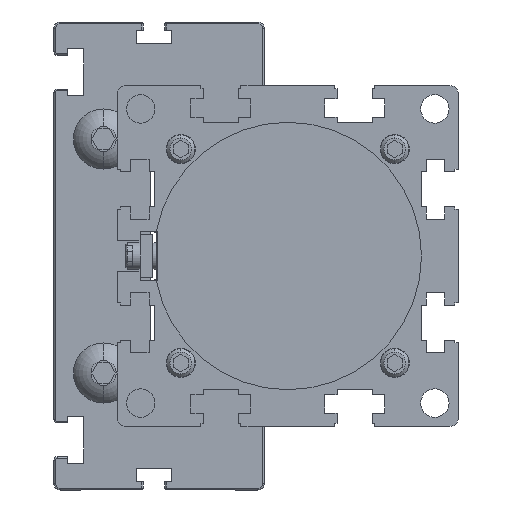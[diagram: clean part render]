
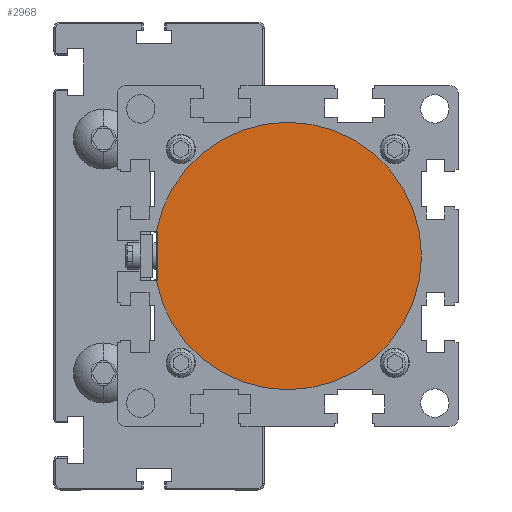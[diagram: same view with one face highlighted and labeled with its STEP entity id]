
A CAD part, left-side view. The second image highlights one B-rep face of the part: STEP entity #2968.
In plain terms, the highlighted planar face has unit normal (-1, 0, 0) as drawn and (1, 0, 0) by its records, which use the part's own axes.
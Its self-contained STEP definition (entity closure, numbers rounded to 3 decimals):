
#317 = CARTESIAN_POINT ( 'NONE',  ( 1., 38.9, -87.778 ) ) ;
#459 = DIRECTION ( 'NONE',  ( 0., 0., -1. ) ) ;
#1261 = ORIENTED_EDGE ( 'NONE', *, *, #6570, .F. ) ;
#1478 = LINE ( 'NONE', #15564, #21404 ) ;
#2373 = CARTESIAN_POINT ( 'NONE',  ( 1., 0., 0. ) ) ;
#2968 = ADVANCED_FACE ( 'NONE', ( #24356 ), #10764, .T. ) ;
#4987 = DIRECTION ( 'NONE',  ( 0., 0., -1. ) ) ;
#6570 = EDGE_CURVE ( 'NONE', #18843, #11332, #14435, .T. ) ;
#6691 = VECTOR ( 'NONE', #26398, 1000. ) ;
#7060 = AXIS2_PLACEMENT_3D ( 'NONE', #13348, #31548, #15987 ) ;
#7641 = CARTESIAN_POINT ( 'NONE',  ( 1., 0., -40. ) ) ;
#8095 = AXIS2_PLACEMENT_3D ( 'NONE', #24869, #9308, #27509 ) ;
#9308 = DIRECTION ( 'NONE',  ( 1., 0., 0. ) ) ;
#9517 = VERTEX_POINT ( 'NONE', #7641 ) ;
#10710 = EDGE_CURVE ( 'NONE', #24105, #18843, #25555, .T. ) ;
#10764 = PLANE ( 'NONE',  #7060 ) ;
#11277 = EDGE_CURVE ( 'NONE', #25606, #11332, #1478, .T. ) ;
#11332 = VERTEX_POINT ( 'NONE', #13588 ) ;
#13345 = CARTESIAN_POINT ( 'NONE',  ( 1., -0.331, 7.25 ) ) ;
#13348 = CARTESIAN_POINT ( 'NONE',  ( 1., -0.331, -87.778 ) ) ;
#13588 = CARTESIAN_POINT ( 'NONE',  ( 1., 38.9, -7.25 ) ) ;
#13870 = ORIENTED_EDGE ( 'NONE', *, *, #23010, .T. ) ;
#14435 = LINE ( 'NONE', #317, #6691 ) ;
#15564 = CARTESIAN_POINT ( 'NONE',  ( 1., -0.331, -7.25 ) ) ;
#15987 = DIRECTION ( 'NONE',  ( 0., 0., -1. ) ) ;
#16101 = DIRECTION ( 'NONE',  ( 1., 0., 0. ) ) ;
#17052 = CIRCLE ( 'NONE', #30787, 40. ) ;
#17492 = CIRCLE ( 'NONE', #8095, 40. ) ;
#17841 = ORIENTED_EDGE ( 'NONE', *, *, #22802, .T. ) ;
#18613 = VECTOR ( 'NONE', #23783, 1000. ) ;
#18843 = VERTEX_POINT ( 'NONE', #22134 ) ;
#18967 = EDGE_LOOP ( 'NONE', ( #31265, #13870, #26360, #17841, #28317, #1261 ) ) ;
#19479 = CARTESIAN_POINT ( 'NONE',  ( 1., 0., 40. ) ) ;
#20026 = CIRCLE ( 'NONE', #23580, 40. ) ;
#20555 = DIRECTION ( 'NONE',  ( 1., 0., 0. ) ) ;
#21404 = VECTOR ( 'NONE', #29088, 1000. ) ;
#22134 = CARTESIAN_POINT ( 'NONE',  ( 1., 38.9, 7.25 ) ) ;
#22802 = EDGE_CURVE ( 'NONE', #9517, #25606, #17492, .T. ) ;
#23010 = EDGE_CURVE ( 'NONE', #24105, #33346, #17052, .T. ) ;
#23580 = AXIS2_PLACEMENT_3D ( 'NONE', #31664, #16101, #459 ) ;
#23783 = DIRECTION ( 'NONE',  ( 0., -1., 0. ) ) ;
#24105 = VERTEX_POINT ( 'NONE', #28025 ) ;
#24356 = FACE_OUTER_BOUND ( 'NONE', #18967, .T. ) ;
#24869 = CARTESIAN_POINT ( 'NONE',  ( 1., 0., 0. ) ) ;
#25555 = LINE ( 'NONE', #13345, #18613 ) ;
#25606 = VERTEX_POINT ( 'NONE', #31783 ) ;
#26360 = ORIENTED_EDGE ( 'NONE', *, *, #29056, .T. ) ;
#26398 = DIRECTION ( 'NONE',  ( 0., 0., -1. ) ) ;
#27509 = DIRECTION ( 'NONE',  ( 0., 0., -1. ) ) ;
#28025 = CARTESIAN_POINT ( 'NONE',  ( 1., 39.337, 7.25 ) ) ;
#28317 = ORIENTED_EDGE ( 'NONE', *, *, #11277, .T. ) ;
#29056 = EDGE_CURVE ( 'NONE', #33346, #9517, #20026, .T. ) ;
#29088 = DIRECTION ( 'NONE',  ( 0., -1., 0. ) ) ;
#30787 = AXIS2_PLACEMENT_3D ( 'NONE', #2373, #20555, #4987 ) ;
#31265 = ORIENTED_EDGE ( 'NONE', *, *, #10710, .F. ) ;
#31548 = DIRECTION ( 'NONE',  ( 1., 0., 0. ) ) ;
#31664 = CARTESIAN_POINT ( 'NONE',  ( 1., 0., 0. ) ) ;
#31783 = CARTESIAN_POINT ( 'NONE',  ( 1., 39.337, -7.25 ) ) ;
#33346 = VERTEX_POINT ( 'NONE', #19479 ) ;
